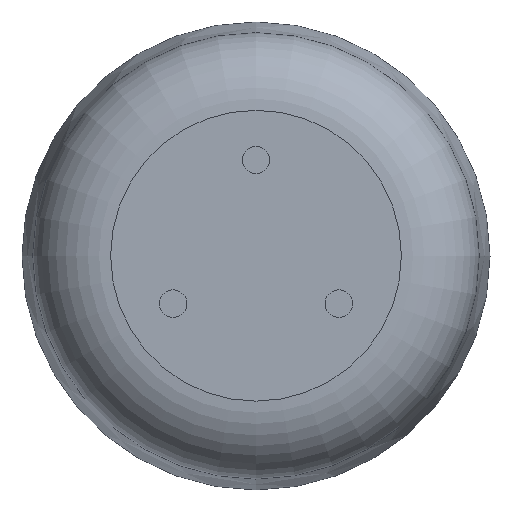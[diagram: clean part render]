
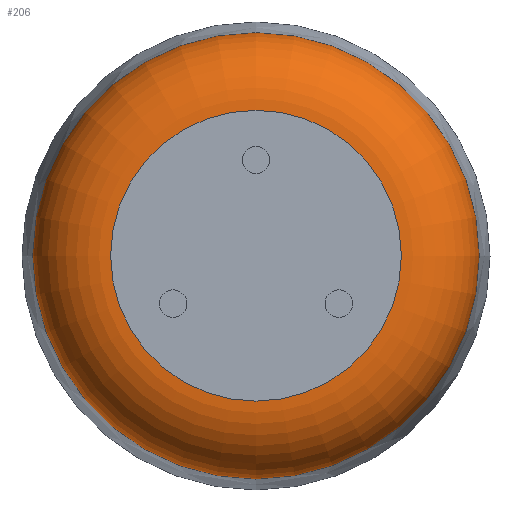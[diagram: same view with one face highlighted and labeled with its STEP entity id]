
A CAD part, top view. The second image highlights one B-rep face of the part: STEP entity #206.
In plain terms, the highlighted toroidal (fillet/blend) face has major radius 24.3 mm and minor radius 13 mm.
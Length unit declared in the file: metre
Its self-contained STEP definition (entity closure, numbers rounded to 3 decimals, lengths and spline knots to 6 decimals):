
#19=TOROIDAL_SURFACE('',#253,0.0243,0.013);
#55=ORIENTED_EDGE('',*,*,#77,.T.);
#56=ORIENTED_EDGE('',*,*,#78,.F.);
#77=EDGE_CURVE('',#95,#95,#113,.T.);
#78=EDGE_CURVE('',#96,#96,#114,.T.);
#95=VERTEX_POINT('',#377);
#96=VERTEX_POINT('',#380);
#113=CIRCLE('',#252,0.0373);
#114=CIRCLE('',#254,0.0243);
#145=EDGE_LOOP('',(#55));
#146=EDGE_LOOP('',(#56));
#181=FACE_BOUND('',#145,.T.);
#182=FACE_BOUND('',#146,.T.);
#206=ADVANCED_FACE('',(#181,#182),#19,.T.);
#252=AXIS2_PLACEMENT_3D('',#376,#320,#321);
#253=AXIS2_PLACEMENT_3D('',#378,#322,#323);
#254=AXIS2_PLACEMENT_3D('',#379,#324,#325);
#320=DIRECTION('',(0.,0.,1.));
#321=DIRECTION('',(1.,0.,0.));
#322=DIRECTION('',(0.,0.,1.));
#323=DIRECTION('',(1.,0.,0.));
#324=DIRECTION('',(0.,0.,1.));
#325=DIRECTION('',(1.,0.,0.));
#376=CARTESIAN_POINT('',(0.,0.,0.039));
#377=CARTESIAN_POINT('',(0.0373,0.,0.039));
#378=CARTESIAN_POINT('',(0.,0.,0.039));
#379=CARTESIAN_POINT('',(0.,0.,0.052));
#380=CARTESIAN_POINT('',(0.0243,0.,0.052));
